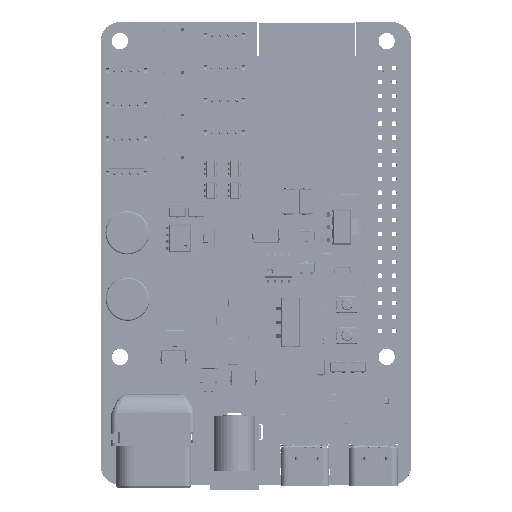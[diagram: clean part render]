
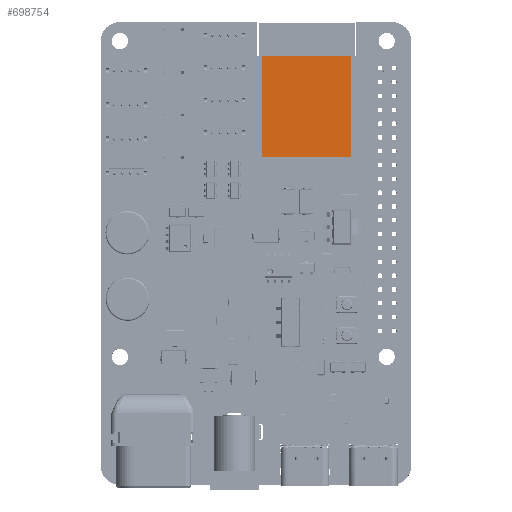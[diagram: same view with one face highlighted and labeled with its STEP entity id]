
A CAD part, top view. The second image highlights one B-rep face of the part: STEP entity #698754.
In plain terms, the highlighted planar face has unit normal (0, 0, 1).
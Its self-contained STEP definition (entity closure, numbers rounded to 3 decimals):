
#698440 = VERTEX_POINT('',#698441);
#698441 = CARTESIAN_POINT('',(8.15,-9.3,2.3));
#698448 = PLANE('',#698449);
#698449 = AXIS2_PLACEMENT_3D('',#698450,#698451,#698452);
#698450 = CARTESIAN_POINT('',(8.15,-9.3,0.));
#698451 = DIRECTION('',(0.,-1.,0.));
#698452 = DIRECTION('',(-1.,0.,0.));
#698460 = PLANE('',#698461);
#698461 = AXIS2_PLACEMENT_3D('',#698462,#698463,#698464);
#698462 = CARTESIAN_POINT('',(8.15,9.3,0.));
#698463 = DIRECTION('',(1.,0.,0.));
#698464 = DIRECTION('',(0.,-1.,0.));
#698472 = EDGE_CURVE('',#698440,#698473,#698475,.T.);
#698473 = VERTEX_POINT('',#698474);
#698474 = CARTESIAN_POINT('',(-8.15,-9.3,2.3));
#698475 = SURFACE_CURVE('',#698476,(#698480,#698487),.PCURVE_S1.);
#698476 = LINE('',#698477,#698478);
#698477 = CARTESIAN_POINT('',(8.15,-9.3,2.3));
#698478 = VECTOR('',#698479,1.);
#698479 = DIRECTION('',(-1.,0.,0.));
#698480 = PCURVE('',#698448,#698481);
#698481 = DEFINITIONAL_REPRESENTATION('',(#698482),#698486);
#698482 = LINE('',#698483,#698484);
#698483 = CARTESIAN_POINT('',(0.,-2.3));
#698484 = VECTOR('',#698485,1.);
#698485 = DIRECTION('',(1.,0.));
#698486 = ( GEOMETRIC_REPRESENTATION_CONTEXT(2) 
PARAMETRIC_REPRESENTATION_CONTEXT() REPRESENTATION_CONTEXT('2D SPACE',''
  ) );
#698487 = PCURVE('',#698488,#698493);
#698488 = PLANE('',#698489);
#698489 = AXIS2_PLACEMENT_3D('',#698490,#698491,#698492);
#698490 = CARTESIAN_POINT('',(8.15,-9.3,2.3));
#698491 = DIRECTION('',(0.,0.,1.));
#698492 = DIRECTION('',(1.,0.,0.));
#698493 = DEFINITIONAL_REPRESENTATION('',(#698494),#698498);
#698494 = LINE('',#698495,#698496);
#698495 = CARTESIAN_POINT('',(0.,0.));
#698496 = VECTOR('',#698497,1.);
#698497 = DIRECTION('',(-1.,0.));
#698498 = ( GEOMETRIC_REPRESENTATION_CONTEXT(2) 
PARAMETRIC_REPRESENTATION_CONTEXT() REPRESENTATION_CONTEXT('2D SPACE',''
  ) );
#698516 = PLANE('',#698517);
#698517 = AXIS2_PLACEMENT_3D('',#698518,#698519,#698520);
#698518 = CARTESIAN_POINT('',(-8.15,-9.3,0.));
#698519 = DIRECTION('',(-1.,0.,0.));
#698520 = DIRECTION('',(0.,1.,0.));
#698558 = EDGE_CURVE('',#698473,#698559,#698561,.T.);
#698559 = VERTEX_POINT('',#698560);
#698560 = CARTESIAN_POINT('',(-8.15,9.3,2.3));
#698561 = SURFACE_CURVE('',#698562,(#698566,#698573),.PCURVE_S1.);
#698562 = LINE('',#698563,#698564);
#698563 = CARTESIAN_POINT('',(-8.15,-9.3,2.3));
#698564 = VECTOR('',#698565,1.);
#698565 = DIRECTION('',(0.,1.,0.));
#698566 = PCURVE('',#698516,#698567);
#698567 = DEFINITIONAL_REPRESENTATION('',(#698568),#698572);
#698568 = LINE('',#698569,#698570);
#698569 = CARTESIAN_POINT('',(0.,-2.3));
#698570 = VECTOR('',#698571,1.);
#698571 = DIRECTION('',(1.,0.));
#698572 = ( GEOMETRIC_REPRESENTATION_CONTEXT(2) 
PARAMETRIC_REPRESENTATION_CONTEXT() REPRESENTATION_CONTEXT('2D SPACE',''
  ) );
#698573 = PCURVE('',#698488,#698574);
#698574 = DEFINITIONAL_REPRESENTATION('',(#698575),#698579);
#698575 = LINE('',#698576,#698577);
#698576 = CARTESIAN_POINT('',(-16.3,0.));
#698577 = VECTOR('',#698578,1.);
#698578 = DIRECTION('',(0.,1.));
#698579 = ( GEOMETRIC_REPRESENTATION_CONTEXT(2) 
PARAMETRIC_REPRESENTATION_CONTEXT() REPRESENTATION_CONTEXT('2D SPACE',''
  ) );
#698597 = PLANE('',#698598);
#698598 = AXIS2_PLACEMENT_3D('',#698599,#698600,#698601);
#698599 = CARTESIAN_POINT('',(-8.15,9.3,0.));
#698600 = DIRECTION('',(0.,1.,0.));
#698601 = DIRECTION('',(1.,0.,0.));
#698634 = EDGE_CURVE('',#698559,#698635,#698637,.T.);
#698635 = VERTEX_POINT('',#698636);
#698636 = CARTESIAN_POINT('',(8.15,9.3,2.3));
#698637 = SURFACE_CURVE('',#698638,(#698642,#698649),.PCURVE_S1.);
#698638 = LINE('',#698639,#698640);
#698639 = CARTESIAN_POINT('',(-8.15,9.3,2.3));
#698640 = VECTOR('',#698641,1.);
#698641 = DIRECTION('',(1.,0.,0.));
#698642 = PCURVE('',#698597,#698643);
#698643 = DEFINITIONAL_REPRESENTATION('',(#698644),#698648);
#698644 = LINE('',#698645,#698646);
#698645 = CARTESIAN_POINT('',(0.,-2.3));
#698646 = VECTOR('',#698647,1.);
#698647 = DIRECTION('',(1.,0.));
#698648 = ( GEOMETRIC_REPRESENTATION_CONTEXT(2) 
PARAMETRIC_REPRESENTATION_CONTEXT() REPRESENTATION_CONTEXT('2D SPACE',''
  ) );
#698649 = PCURVE('',#698488,#698650);
#698650 = DEFINITIONAL_REPRESENTATION('',(#698651),#698655);
#698651 = LINE('',#698652,#698653);
#698652 = CARTESIAN_POINT('',(-16.3,18.6));
#698653 = VECTOR('',#698654,1.);
#698654 = DIRECTION('',(1.,0.));
#698655 = ( GEOMETRIC_REPRESENTATION_CONTEXT(2) 
PARAMETRIC_REPRESENTATION_CONTEXT() REPRESENTATION_CONTEXT('2D SPACE',''
  ) );
#698705 = EDGE_CURVE('',#698635,#698440,#698706,.T.);
#698706 = SURFACE_CURVE('',#698707,(#698711,#698718),.PCURVE_S1.);
#698707 = LINE('',#698708,#698709);
#698708 = CARTESIAN_POINT('',(8.15,9.3,2.3));
#698709 = VECTOR('',#698710,1.);
#698710 = DIRECTION('',(0.,-1.,0.));
#698711 = PCURVE('',#698460,#698712);
#698712 = DEFINITIONAL_REPRESENTATION('',(#698713),#698717);
#698713 = LINE('',#698714,#698715);
#698714 = CARTESIAN_POINT('',(0.,-2.3));
#698715 = VECTOR('',#698716,1.);
#698716 = DIRECTION('',(1.,0.));
#698717 = ( GEOMETRIC_REPRESENTATION_CONTEXT(2) 
PARAMETRIC_REPRESENTATION_CONTEXT() REPRESENTATION_CONTEXT('2D SPACE',''
  ) );
#698718 = PCURVE('',#698488,#698719);
#698719 = DEFINITIONAL_REPRESENTATION('',(#698720),#698724);
#698720 = LINE('',#698721,#698722);
#698721 = CARTESIAN_POINT('',(0.,18.6));
#698722 = VECTOR('',#698723,1.);
#698723 = DIRECTION('',(0.,-1.));
#698724 = ( GEOMETRIC_REPRESENTATION_CONTEXT(2) 
PARAMETRIC_REPRESENTATION_CONTEXT() REPRESENTATION_CONTEXT('2D SPACE',''
  ) );
#698754 = ADVANCED_FACE('',(#698755),#698488,.T.);
#698755 = FACE_BOUND('',#698756,.F.);
#698756 = EDGE_LOOP('',(#698757,#698758,#698759,#698760));
#698757 = ORIENTED_EDGE('',*,*,#698472,.T.);
#698758 = ORIENTED_EDGE('',*,*,#698558,.T.);
#698759 = ORIENTED_EDGE('',*,*,#698634,.T.);
#698760 = ORIENTED_EDGE('',*,*,#698705,.T.);
